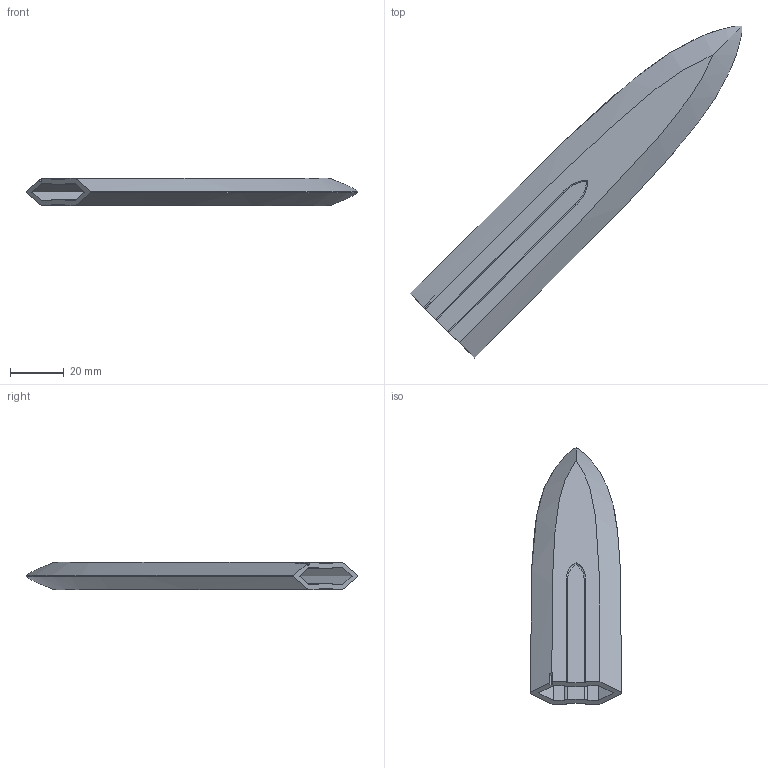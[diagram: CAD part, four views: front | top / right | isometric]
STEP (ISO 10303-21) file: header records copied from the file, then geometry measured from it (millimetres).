
FILE_DESCRIPTION(/* description */ ('STEP AP242 Edition 2','CAx-IF Rec.Pracs.---Representation and Presentation of Product Manufacturing Information (PMI)---4.0---2014-10-13','CAx-IF Rec.Pracs.---3D Tessellated Geometry---0.4---2014-09-14','2;1','CAx-IF Rec.Pracs.---User Defined Attributes---1.5---2016-08-15'),/* implementation_level */ '2;1');
FILE_NAME(/* name */ 'Part Studio 2 - Blade top part',/* time_stamp */ '2026-02-06T19:17:58Z',/* author */ (''),/* organization */ (''),/* preprocessor_version */ 'ST-DEVELOPER v20',/* originating_system */ 'ONSHAPE BY PTC INC, 1.210',/* authorisation */ ' ');
FILE_SCHEMA (('AP242_MANAGED_MODEL_BASED_3D_ENGINEERING_MIM_LF { 1 0 10303 442 3 1 4 }'));
Length unit declared in the file: metre
Products named in the file (1): Blade top part
Bounding box: 123.09 x 123.09 x 10.26 mm (x, y, z)
Volume: 16412.5 mm3; surface area: 18293.2 mm2
Topology: 1 solids, 1 shells, 44 faces, 116 edges, 75 vertices
Faces by surface type: bspline 22, plane 13, cylinder 9
Entity records: 3362 total; most frequent: CARTESIAN_POINT 2432, ORIENTED_EDGE 232, EDGE_CURVE 116, DIRECTION 116, VERTEX_POINT 75, B_SPLINE_CURVE_WITH_KNOTS 60, EDGE_LOOP 45, FACE_BOUND 45
